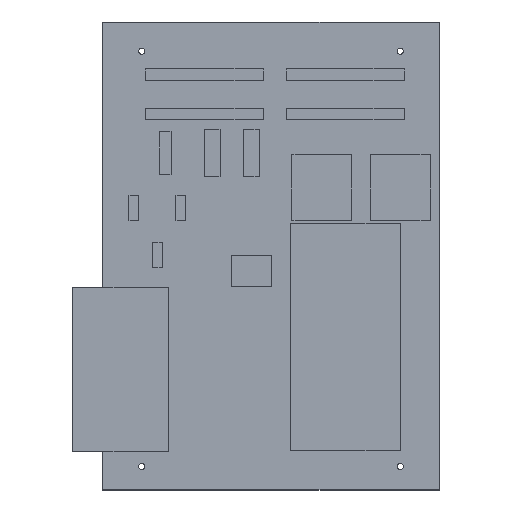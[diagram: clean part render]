
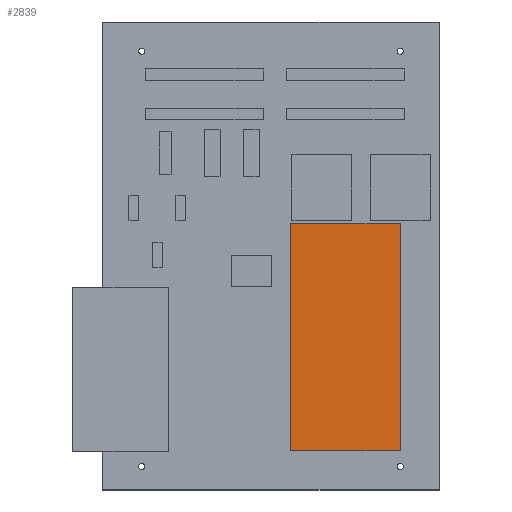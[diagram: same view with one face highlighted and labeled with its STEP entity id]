
A CAD part, top view. The second image highlights one B-rep face of the part: STEP entity #2839.
In plain terms, the highlighted planar face has unit normal (0, 0, 1).
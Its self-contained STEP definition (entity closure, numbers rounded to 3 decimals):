
#300=PLANE('',#3250);
#434=FACE_OUTER_BOUND('',#728,.T.);
#728=EDGE_LOOP('',(#2480,#2481,#2482,#2483));
#890=LINE('',#4747,#1078);
#893=LINE('',#4753,#1081);
#896=LINE('',#4759,#1084);
#899=LINE('',#4763,#1087);
#1078=VECTOR('',#3990,10.);
#1081=VECTOR('',#3995,10.);
#1084=VECTOR('',#4000,10.);
#1087=VECTOR('',#4005,10.);
#1486=VERTEX_POINT('',#4744);
#1487=VERTEX_POINT('',#4746);
#1489=VERTEX_POINT('',#4752);
#1491=VERTEX_POINT('',#4758);
#1818=EDGE_CURVE('',#1487,#1486,#890,.T.);
#1821=EDGE_CURVE('',#1489,#1487,#893,.T.);
#1824=EDGE_CURVE('',#1491,#1489,#896,.T.);
#1827=EDGE_CURVE('',#1486,#1491,#899,.T.);
#2480=ORIENTED_EDGE('',*,*,#1827,.T.);
#2481=ORIENTED_EDGE('',*,*,#1824,.T.);
#2482=ORIENTED_EDGE('',*,*,#1821,.T.);
#2483=ORIENTED_EDGE('',*,*,#1818,.T.);
#2839=ADVANCED_FACE('',(#434),#300,.T.);
#3250=AXIS2_PLACEMENT_3D('',#4764,#4006,#4007);
#3990=DIRECTION('',(-1.,0.,0.));
#3995=DIRECTION('',(0.,1.,0.));
#4000=DIRECTION('',(1.,0.,0.));
#4005=DIRECTION('',(0.,-1.,0.));
#4006=DIRECTION('center_axis',(0.,0.,1.));
#4007=DIRECTION('ref_axis',(1.,0.,0.));
#4744=CARTESIAN_POINT('',(-8.89,17.78,0.1));
#4746=CARTESIAN_POINT('',(8.89,17.78,0.1));
#4747=CARTESIAN_POINT('',(8.89,17.78,0.1));
#4752=CARTESIAN_POINT('',(8.89,-19.05,0.1));
#4753=CARTESIAN_POINT('',(8.89,-19.05,0.1));
#4758=CARTESIAN_POINT('',(-8.89,-19.05,0.1));
#4759=CARTESIAN_POINT('',(-8.89,-19.05,0.1));
#4763=CARTESIAN_POINT('',(-8.89,17.78,0.1));
#4764=CARTESIAN_POINT('Origin',(0.,-0.635,0.1));
